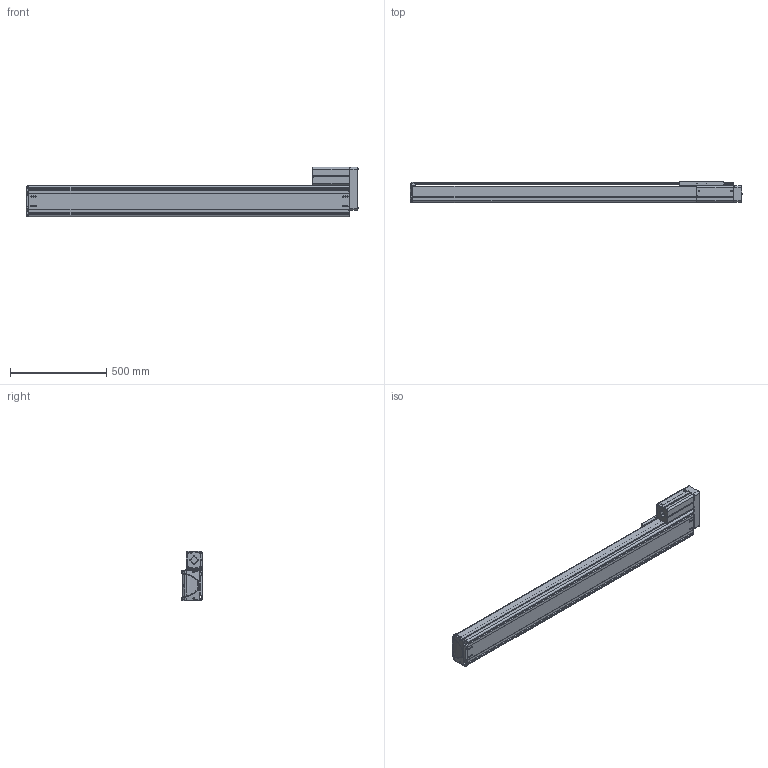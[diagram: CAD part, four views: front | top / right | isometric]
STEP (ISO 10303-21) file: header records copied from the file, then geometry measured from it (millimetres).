
FILE_DESCRIPTION((''),'2;1');
FILE_NAME('BE50F-UR-L_B-D5_IGS_PRT','2017-06-18T',(' '),(''),'PRO/ENGINEER BY PARAMETRIC TECHNOLOGY CORPORATION, 2015030','PRO/ENGINEER BY PARAMETRIC TECHNOLOGY CORPORATION, 2015030','');
FILE_SCHEMA(('CONFIG_CONTROL_DESIGN'));
Length unit declared in the file: millimetre
Products named in the file (1): BE50F-UR-L_B-D5_IGS_PRT
Bounding box: 1725.88 x 110 x 257 mm (x, y, z)
Volume: 6755875.1 mm3; surface area: 2862417.7 mm2
Topology: 7 solids, 163 shells, 2368 faces, 6534 edges, 4287 vertices
Faces by surface type: cylinder 1058, plane 1018, cone 153, torus 59, bspline 48, sphere 32
Entity records: 79415 total; most frequent: CARTESIAN_POINT 18518, DIRECTION 12655, ORIENTED_EDGE 12407, EDGE_CURVE 6488, AXIS2_PLACEMENT_3D 4542, VERTEX_POINT 4283, VECTOR 3571, LINE 3571
